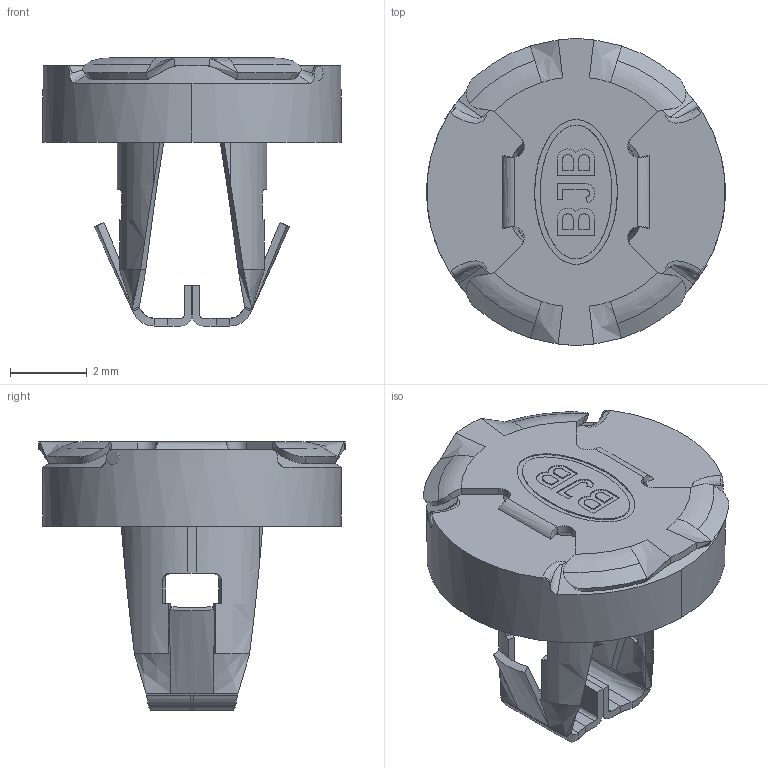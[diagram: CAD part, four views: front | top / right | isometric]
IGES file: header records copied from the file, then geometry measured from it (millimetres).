
Global section: file name: C:\CoreTechnologie\3D-In/01V-711-02.igs; native system: CT CoreTechnologie 3D Evolution; preprocessor: 2006; date: 1210320.141354; units: millimetre
Bounding box: 7.8 x 7.99 x 7 mm (x, y, z)
Volume: 85.5 mm3; surface area: 277 mm2
Topology: 1 solids, 1 shells, 292 faces, 797 edges, 501 vertices
Faces by surface type: plane 148, bspline 76, revolution 68
